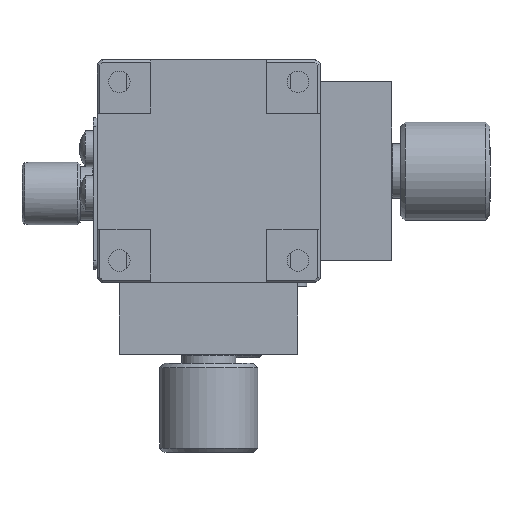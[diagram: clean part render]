
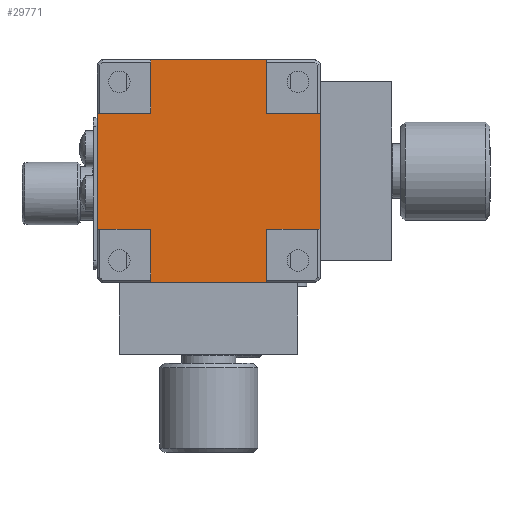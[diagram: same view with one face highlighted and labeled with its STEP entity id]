
A CAD part, front view. The second image highlights one B-rep face of the part: STEP entity #29771.
In plain terms, the highlighted planar face has unit normal (0, -1, 0).
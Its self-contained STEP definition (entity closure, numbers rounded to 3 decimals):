
#503 = CARTESIAN_POINT ( 'NONE',  ( 25., 0.4, -6. ) ) ;
#1046 = EDGE_CURVE ( 'NONE', #36083, #39400, #11348, .T. ) ;
#1235 = EDGE_CURVE ( 'NONE', #36083, #10647, #14819, .T. ) ;
#1505 = LINE ( 'NONE', #35628, #30279 ) ;
#2007 = CARTESIAN_POINT ( 'NONE',  ( 6., 0.4, 0. ) ) ;
#2178 = ORIENTED_EDGE ( 'NONE', *, *, #47990, .T. ) ;
#2748 = DIRECTION ( 'NONE',  ( 0., 0., 1. ) ) ;
#3314 = EDGE_CURVE ( 'NONE', #36700, #42651, #26460, .T. ) ;
#3712 = DIRECTION ( 'NONE',  ( 1., 0., 0. ) ) ;
#3714 = DIRECTION ( 'NONE',  ( 0., 0., -1. ) ) ;
#4892 = EDGE_CURVE ( 'NONE', #46764, #24689, #1505, .T. ) ;
#5571 = CARTESIAN_POINT ( 'NONE',  ( 6., 0.4, -25. ) ) ;
#6773 = DIRECTION ( 'NONE',  ( 0., -1., 0. ) ) ;
#7253 = CARTESIAN_POINT ( 'NONE',  ( 19., 0.4, -19. ) ) ;
#7776 = LINE ( 'NONE', #8038, #44437 ) ;
#8038 = CARTESIAN_POINT ( 'NONE',  ( 25., 0.4, 0. ) ) ;
#8568 = CARTESIAN_POINT ( 'NONE',  ( 19., 0.4, -6. ) ) ;
#9409 = CARTESIAN_POINT ( 'NONE',  ( 6., 0.4, -19. ) ) ;
#9769 = CARTESIAN_POINT ( 'NONE',  ( 19., 0.4, -25. ) ) ;
#10325 = CARTESIAN_POINT ( 'NONE',  ( 25., 0.4, -19. ) ) ;
#10647 = VERTEX_POINT ( 'NONE', #20002 ) ;
#10803 = LINE ( 'NONE', #38568, #40303 ) ;
#11024 = ORIENTED_EDGE ( 'NONE', *, *, #3314, .T. ) ;
#11103 = ORIENTED_EDGE ( 'NONE', *, *, #4892, .T. ) ;
#11348 = LINE ( 'NONE', #42156, #29879 ) ;
#12575 = VECTOR ( 'NONE', #3712, 1000. ) ;
#12908 = LINE ( 'NONE', #5571, #15587 ) ;
#14303 = EDGE_CURVE ( 'NONE', #34380, #43869, #36355, .T. ) ;
#14359 = PLANE ( 'NONE',  #32276 ) ;
#14579 = DIRECTION ( 'NONE',  ( 0., 0., -1. ) ) ;
#14786 = VECTOR ( 'NONE', #44158, 1000. ) ;
#14819 = LINE ( 'NONE', #33275, #24915 ) ;
#14820 = CARTESIAN_POINT ( 'NONE',  ( 6., 0.4, -6. ) ) ;
#15587 = VECTOR ( 'NONE', #47484, 1000. ) ;
#17886 = EDGE_CURVE ( 'NONE', #37488, #10647, #39097, .T. ) ;
#18073 = DIRECTION ( 'NONE',  ( 0., 0., -1. ) ) ;
#18884 = CARTESIAN_POINT ( 'NONE',  ( 6., 0.4, 0. ) ) ;
#19095 = ORIENTED_EDGE ( 'NONE', *, *, #1046, .F. ) ;
#19415 = CARTESIAN_POINT ( 'NONE',  ( 0., 0.4, -19. ) ) ;
#19879 = ORIENTED_EDGE ( 'NONE', *, *, #25258, .F. ) ;
#19906 = DIRECTION ( 'NONE',  ( -1., 0., 0. ) ) ;
#20002 = CARTESIAN_POINT ( 'NONE',  ( 0., 0.4, -19. ) ) ;
#20215 = CARTESIAN_POINT ( 'NONE',  ( 6., 0.4, -25. ) ) ;
#20220 = DIRECTION ( 'NONE',  ( -1., 0., 0. ) ) ;
#20714 = VECTOR ( 'NONE', #19906, 1000. ) ;
#20805 = ORIENTED_EDGE ( 'NONE', *, *, #31624, .F. ) ;
#22674 = ORIENTED_EDGE ( 'NONE', *, *, #26763, .F. ) ;
#22916 = CARTESIAN_POINT ( 'NONE',  ( 0., 0.4, -25. ) ) ;
#23365 = VECTOR ( 'NONE', #18073, 1000. ) ;
#24689 = VERTEX_POINT ( 'NONE', #18884 ) ;
#24915 = VECTOR ( 'NONE', #14579, 1000. ) ;
#25258 = EDGE_CURVE ( 'NONE', #26447, #47647, #39262, .T. ) ;
#25409 = ORIENTED_EDGE ( 'NONE', *, *, #1235, .T. ) ;
#25744 = FACE_OUTER_BOUND ( 'NONE', #32502, .T. ) ;
#26051 = ORIENTED_EDGE ( 'NONE', *, *, #32627, .F. ) ;
#26447 = VERTEX_POINT ( 'NONE', #8568 ) ;
#26460 = LINE ( 'NONE', #22916, #12575 ) ;
#26482 = CARTESIAN_POINT ( 'NONE',  ( 12.5, 0.4, -12.5 ) ) ;
#26763 = EDGE_CURVE ( 'NONE', #46764, #26447, #10803, .T. ) ;
#28339 = EDGE_CURVE ( 'NONE', #43869, #42651, #47877, .T. ) ;
#29771 = ADVANCED_FACE ( 'NONE', ( #25744 ), #14359, .T. ) ;
#29879 = VECTOR ( 'NONE', #38861, 1000. ) ;
#30279 = VECTOR ( 'NONE', #20220, 1000. ) ;
#31031 = ORIENTED_EDGE ( 'NONE', *, *, #14303, .F. ) ;
#31556 = ORIENTED_EDGE ( 'NONE', *, *, #28339, .F. ) ;
#31624 = EDGE_CURVE ( 'NONE', #39400, #24689, #44184, .T. ) ;
#32276 = AXIS2_PLACEMENT_3D ( 'NONE', #26482, #6773, #45919 ) ;
#32502 = EDGE_LOOP ( 'NONE', ( #25409, #33696, #26051, #11024, #31556, #31031, #2178, #19879, #22674, #11103, #20805, #19095 ) ) ;
#32627 = EDGE_CURVE ( 'NONE', #36700, #37488, #12908, .T. ) ;
#33275 = CARTESIAN_POINT ( 'NONE',  ( 0., 0.4, 0. ) ) ;
#33696 = ORIENTED_EDGE ( 'NONE', *, *, #17886, .F. ) ;
#34380 = VERTEX_POINT ( 'NONE', #40048 ) ;
#35628 = CARTESIAN_POINT ( 'NONE',  ( 0., 0.4, 0. ) ) ;
#36083 = VERTEX_POINT ( 'NONE', #37530 ) ;
#36355 = LINE ( 'NONE', #10325, #14786 ) ;
#36700 = VERTEX_POINT ( 'NONE', #20215 ) ;
#37488 = VERTEX_POINT ( 'NONE', #9409 ) ;
#37530 = CARTESIAN_POINT ( 'NONE',  ( 0., 0.4, -6. ) ) ;
#38268 = DIRECTION ( 'NONE',  ( 1., 0., 0. ) ) ;
#38337 = DIRECTION ( 'NONE',  ( 0., 0., 1. ) ) ;
#38568 = CARTESIAN_POINT ( 'NONE',  ( 19., 0.4, 0. ) ) ;
#38861 = DIRECTION ( 'NONE',  ( 1., 0., 0. ) ) ;
#39097 = LINE ( 'NONE', #19415, #20714 ) ;
#39262 = LINE ( 'NONE', #42064, #49881 ) ;
#39400 = VERTEX_POINT ( 'NONE', #14820 ) ;
#40048 = CARTESIAN_POINT ( 'NONE',  ( 25., 0.4, -19. ) ) ;
#40303 = VECTOR ( 'NONE', #3714, 1000. ) ;
#42064 = CARTESIAN_POINT ( 'NONE',  ( 25., 0.4, -6. ) ) ;
#42156 = CARTESIAN_POINT ( 'NONE',  ( 0., 0.4, -6. ) ) ;
#42651 = VERTEX_POINT ( 'NONE', #46365 ) ;
#43305 = VECTOR ( 'NONE', #2748, 1000. ) ;
#43869 = VERTEX_POINT ( 'NONE', #7253 ) ;
#44158 = DIRECTION ( 'NONE',  ( -1., 0., 0. ) ) ;
#44184 = LINE ( 'NONE', #2007, #43305 ) ;
#44437 = VECTOR ( 'NONE', #38337, 1000. ) ;
#45919 = DIRECTION ( 'NONE',  ( 0., 0., -1. ) ) ;
#46365 = CARTESIAN_POINT ( 'NONE',  ( 19., 0.4, -25. ) ) ;
#46764 = VERTEX_POINT ( 'NONE', #47822 ) ;
#47484 = DIRECTION ( 'NONE',  ( 0., 0., 1. ) ) ;
#47647 = VERTEX_POINT ( 'NONE', #503 ) ;
#47822 = CARTESIAN_POINT ( 'NONE',  ( 19., 0.4, 0. ) ) ;
#47877 = LINE ( 'NONE', #9769, #23365 ) ;
#47990 = EDGE_CURVE ( 'NONE', #34380, #47647, #7776, .T. ) ;
#49881 = VECTOR ( 'NONE', #38268, 1000. ) ;
